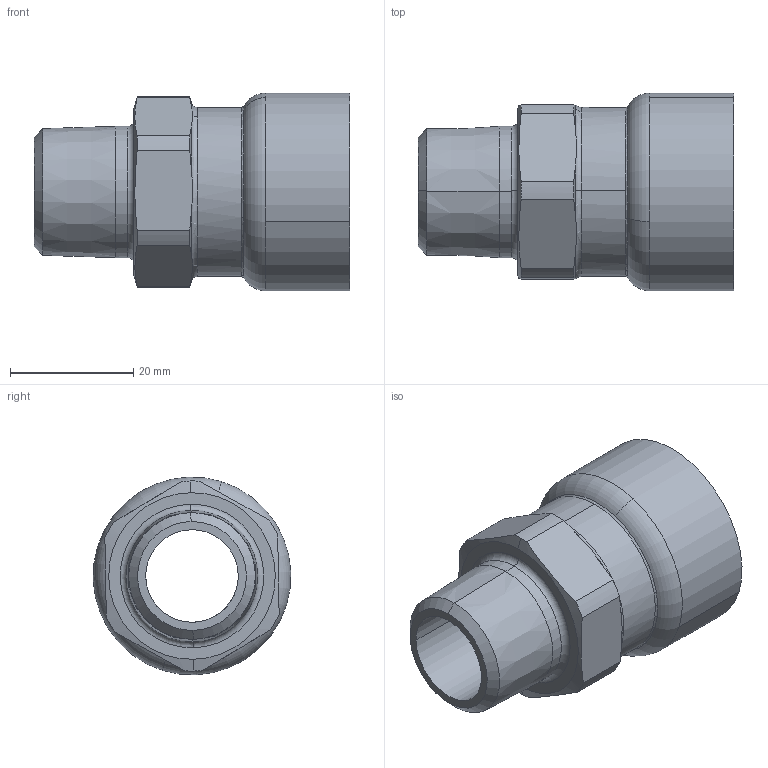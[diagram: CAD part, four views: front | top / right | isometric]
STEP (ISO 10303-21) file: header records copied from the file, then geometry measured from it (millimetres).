
FILE_DESCRIPTION(('Creo Elements/Direct Modeling STEP Export'),'2;1');
FILE_NAME('C9405_1-2.stp','2020-06-18T14:10:58',(''),(''),'PTC Creo Elements/Direct Modeling STEP processor for AP214 (Solid Model)','PTC Creo Elements/Direct Modeling 19.0C 15-Aug-2015 (C) Parametric Technology GmbH','');
FILE_SCHEMA(('AUTOMOTIVE_DESIGN { 1 0 10303 214 1 1 1 1 }'));
Length unit declared in the file: millimetre
Products named in the file (2): 9405_1-2
Assembly tree (1 placements, depth 2):
  9405_1-2
    9405_1-2
Bounding box: 51.19 x 32.02 x 32.02 mm (x, y, z)
Volume: 15307.4 mm3; surface area: 8579.2 mm2
Topology: 1 solids, 1 shells, 46 faces, 127 edges, 85 vertices
Faces by surface type: cylinder 16, cone 12, plane 10, torus 8
Entity records: 2165 total; most frequent: CARTESIAN_POINT 1054, ORIENTED_EDGE 254, DIRECTION 182, EDGE_CURVE 127, VERTEX_POINT 85, AXIS2_PLACEMENT_3D 77, EDGE_LOOP 50, FACE_OUTER_BOUND 46
